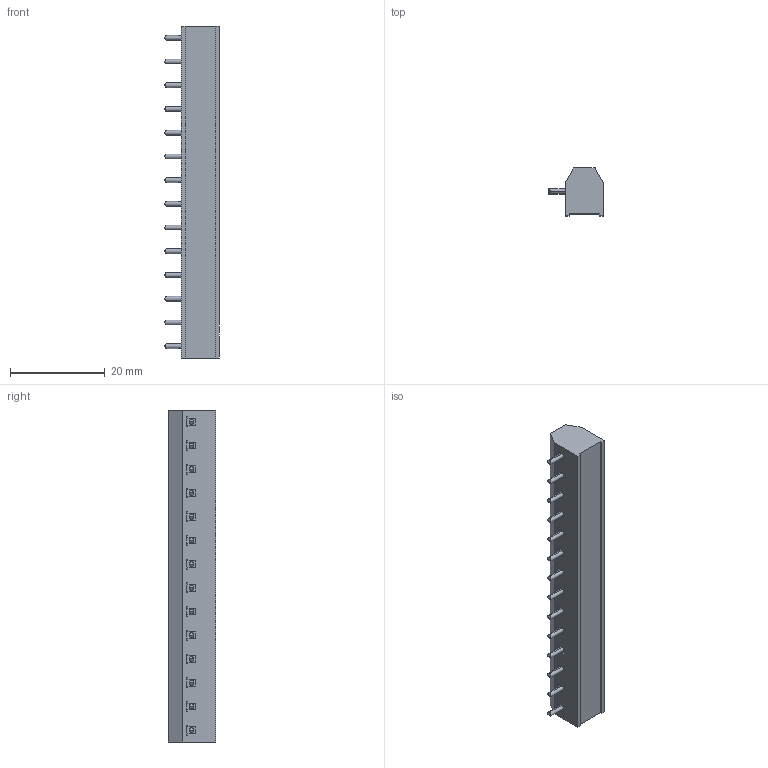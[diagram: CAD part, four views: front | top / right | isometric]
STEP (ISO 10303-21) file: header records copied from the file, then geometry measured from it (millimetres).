
FILE_DESCRIPTION (( 'STEP AP214' ), '1' );
FILE_NAME ('951-HG-DS-14.STEP', '2008-02-28T21:31:23', ( 'weco' ), ( 'weco' ), 'SwSTEP 2.0', 'SolidWorks 2007', '' );
FILE_SCHEMA (( 'AUTOMOTIVE_DESIGN' ));
Length unit declared in the file: millimetre
Products named in the file (1): 951-HG-DS-14
Bounding box: 11.5 x 10 x 70 mm (x, y, z)
Volume: 4482.7 mm3; surface area: 4119.1 mm2
Topology: 1 solids, 1 shells, 1020 faces, 3236 edges, 2148 vertices
Faces by surface type: plane 810, cylinder 154, cone 28, bspline 28
Entity records: 37057 total; most frequent: CARTESIAN_POINT 8687, ORIENTED_EDGE 6472, DIRECTION 5348, EDGE_CURVE 3236, LINE 2186, VECTOR 2186, VERTEX_POINT 2148, AXIS2_PLACEMENT_3D 1581
